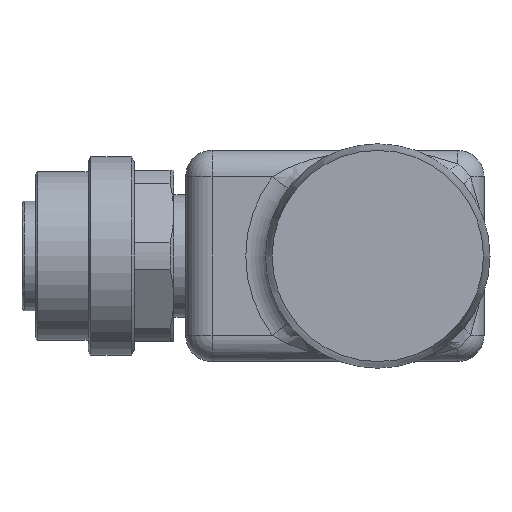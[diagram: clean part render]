
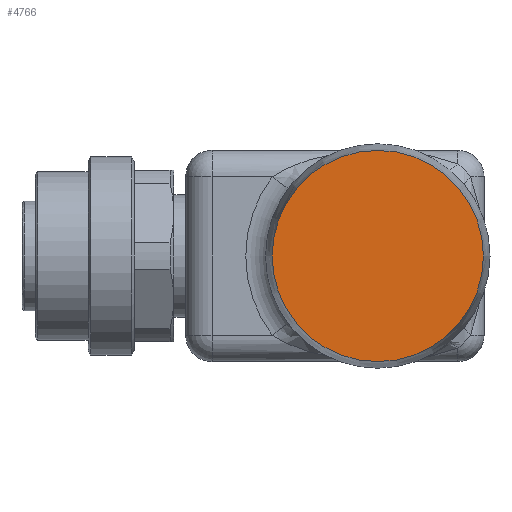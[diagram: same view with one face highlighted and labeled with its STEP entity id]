
A CAD part, front view. The second image highlights one B-rep face of the part: STEP entity #4766.
In plain terms, the highlighted planar face has unit normal (0, -1, 0).
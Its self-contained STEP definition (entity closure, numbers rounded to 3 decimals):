
#99 = ORIENTED_EDGE ( 'NONE', *, *, #2932, .T. ) ;
#896 = DIRECTION ( 'NONE',  ( 0., -1., 0. ) ) ;
#1454 = EDGE_LOOP ( 'NONE', ( #99 ) ) ;
#2435 = CARTESIAN_POINT ( 'NONE',  ( -25.388, -18.086, 36.926 ) ) ;
#2775 = AXIS2_PLACEMENT_3D ( 'NONE', #2435, #896, #4482 ) ;
#2932 = EDGE_CURVE ( 'NONE', #5715, #5715, #3330, .T. ) ;
#3330 = CIRCLE ( 'NONE', #2775, 8. ) ;
#3723 = PLANE ( 'NONE',  #4032 ) ;
#4032 = AXIS2_PLACEMENT_3D ( 'NONE', #4258, #4822, #4771 ) ;
#4240 = CARTESIAN_POINT ( 'NONE',  ( -33.388, -18.086, 36.926 ) ) ;
#4258 = CARTESIAN_POINT ( 'NONE',  ( -25.388, -18.086, 36.926 ) ) ;
#4482 = DIRECTION ( 'NONE',  ( -1., 0., 0. ) ) ;
#4766 = ADVANCED_FACE ( 'NONE', ( #5791 ), #3723, .T. ) ;
#4771 = DIRECTION ( 'NONE',  ( -1., 0., 0. ) ) ;
#4822 = DIRECTION ( 'NONE',  ( 0., -1., 0. ) ) ;
#5715 = VERTEX_POINT ( 'NONE', #4240 ) ;
#5791 = FACE_OUTER_BOUND ( 'NONE', #1454, .T. ) ;
